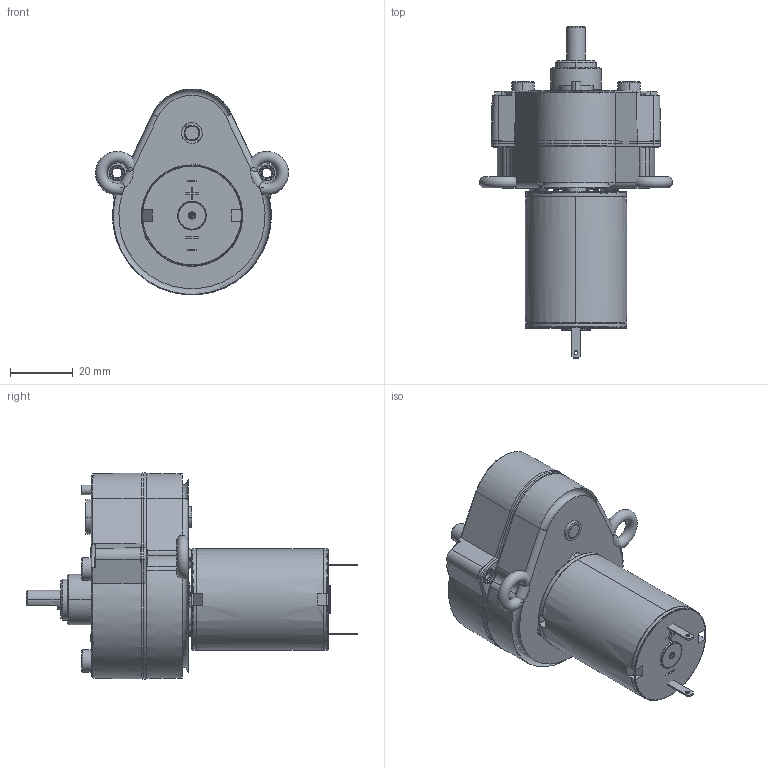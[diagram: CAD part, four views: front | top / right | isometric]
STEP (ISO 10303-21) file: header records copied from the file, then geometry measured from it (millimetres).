
FILE_DESCRIPTION((''),'2;1');
FILE_NAME('8286900','2012-07-13T',('ALEBGO1'),('CROUZET-AUTOMATISMES'),'PRO/ENGINEER BY PARAMETRIC TECHNOLOGY CORPORATION, 2010280','PRO/ENGINEER BY PARAMETRIC TECHNOLOGY CORPORATION, 2010280','');
FILE_SCHEMA(('CONFIG_CONTROL_DESIGN'));
Products named in the file (1): 8286900
Bounding box: 61.37 x 105.5 x 65.5 mm (x, y, z)
Surface area: 24811.2 mm2 (no closed solid volume)
Topology: 0 solids, 0 shells, 521 faces, 2862 edges, 2826 vertices
Faces by surface type: bspline 473, torus 48
Entity records: 69232 total; most frequent: CARTESIAN_POINT 42157, DIRECTION 4669, TRIMMED_CURVE 3940, VECTOR 3307, LINE 3307, DEFINITIONAL_REPRESENTATION 2790, PCURVE 2790, COMPOSITE_CURVE_SEGMENT 2790
